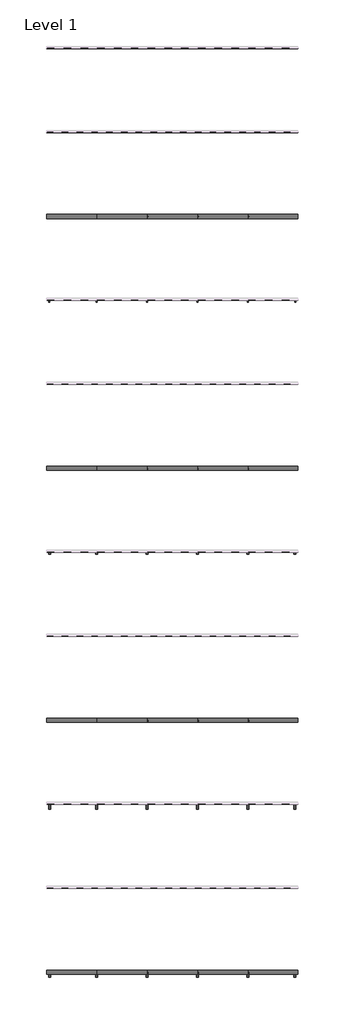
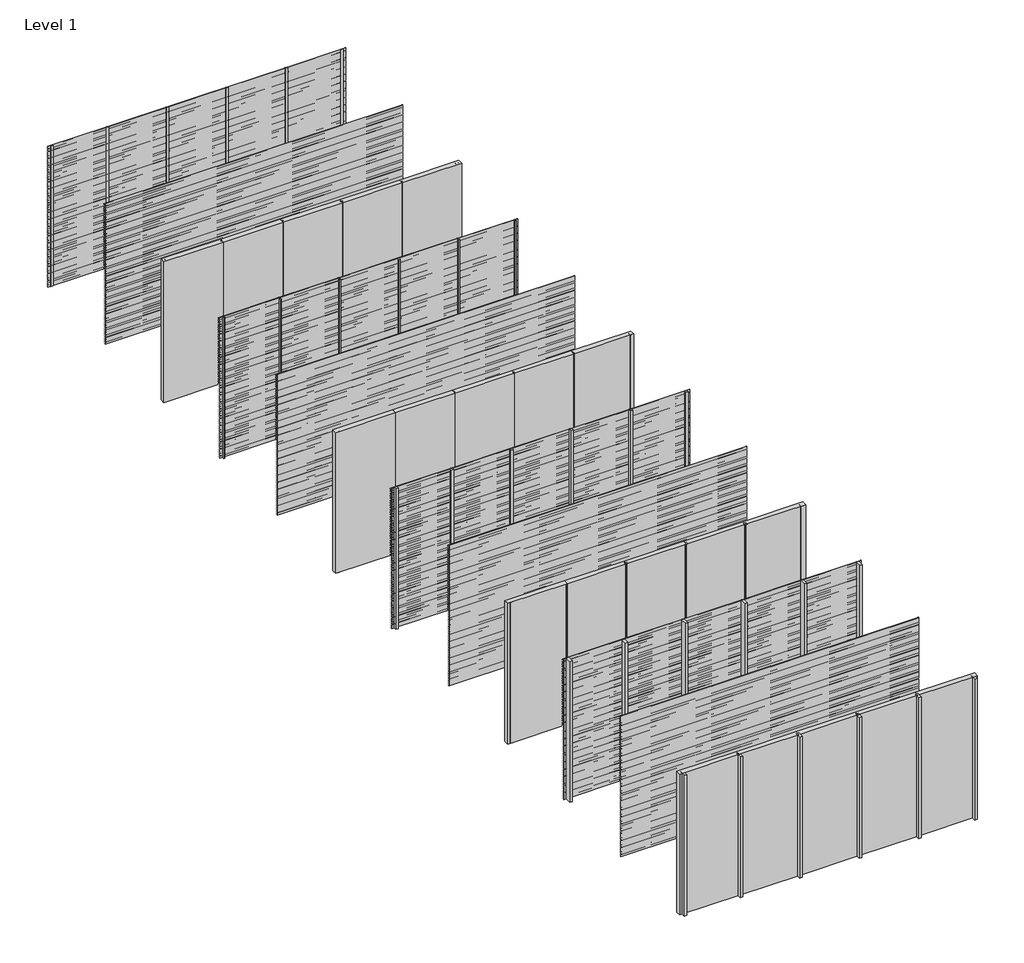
# One storey, part 1 of 16: 48 members, 44 plates, 26 proxies.
"""IFC4 building model written with IfcOpenShell, lengths in millimetres."""

from ifc_helpers import new_model, si_unit, frame, origin, origin_with_axes, place, context, project, spatial, polyline, outline, extrude, transform, mapped, element, save
from components import rectangular_mullion_bbbcbd30, rectangular_mullion_f8d4a220, rectangular_mullion_81aaf6fe, rectangular_mullion_6e08dc26, rectangular_mullion_75c52e10, rectangular_mullion_40295cf1, rectangular_mullion_7f158cb3, rectangular_mullion_66519e13, rectangular_mullion_5829b51c, rectangular_mullion_3b5b8a15, rectangular_mullion_81543344, rectangular_mullion_041a21c4, empty_system_panel_empty_50a928b3, empty_system_panel_empty_6b1ffbf5

model = new_model("IFC4")

# Units and contexts
model_context = context("Model", 3, world=origin())
ifc_project = project(units=[si_unit("LENGTHUNIT", "METRE", prefix="MILLI")], contexts=[model_context])

# Site, building, storey
site = spatial("IfcSite", under=ifc_project)
building = spatial("IfcBuilding", under=site)
storey = spatial("IfcBuildingStorey", under=building, Name="Level 1", Elevation=0.0)

# Proxies
placement = place(None, origin())
element("IfcBuildingElementProxy", 1, Name="Wall Sweeps", at=placement, inside=storey, context=model_context, shape_type="SweptSolid", body=[
    extrude(outline(polyline([(-19995.0, 3000.0), (-19995.0, 2989.6352854), (-19954.0, 2965.0), (-19954.0, 2950.0), (-19997.0, 2975.8370066), (-19997.0, 3000.0), (-19995.0, 3000.0)])), frame((0.0, 0.0, 0.0), z_axis=(1.0, 0.0, 0.0), x_axis=(0.0, 1.0, 0.0)), (0.0, 0.0, 1.0), 6000.0),
])
element("IfcBuildingElementProxy", 2, Name="Wall Sweeps", at=placement, inside=storey, context=model_context, shape_type="SweptSolid", body=[
    extrude(outline(polyline([(-19995.0, 2950.0), (-19995.0, 2939.6352854), (-19954.0, 2915.0), (-19954.0, 2900.0), (-19997.0, 2925.8370066), (-19997.0, 2950.0), (-19995.0, 2950.0)])), frame((0.0, 0.0, 0.0), z_axis=(1.0, 0.0, 0.0), x_axis=(0.0, 1.0, 0.0)), (0.0, 0.0, 1.0), 6000.0),
])
element("IfcBuildingElementProxy", 3, Name="Wall Sweeps", at=placement, inside=storey, context=model_context, shape_type="SweptSolid", body=[
    extrude(outline(polyline([(-19995.0, 2900.0), (-19995.0, 2889.6352854), (-19954.0, 2865.0), (-19954.0, 2850.0), (-19997.0, 2875.8370066), (-19997.0, 2900.0), (-19995.0, 2900.0)])), frame((0.0, 0.0, 0.0), z_axis=(1.0, 0.0, 0.0), x_axis=(0.0, 1.0, 0.0)), (0.0, 0.0, 1.0), 6000.0),
])
element("IfcBuildingElementProxy", 4, Name="Wall Sweeps", at=placement, inside=storey, context=model_context, shape_type="SweptSolid", body=[
    extrude(outline(polyline([(-19995.0, 2850.0), (-19995.0, 2839.6352854), (-19954.0, 2815.0), (-19954.0, 2800.0), (-19997.0, 2825.8370066), (-19997.0, 2850.0), (-19995.0, 2850.0)])), frame((0.0, 0.0, 0.0), z_axis=(1.0, 0.0, 0.0), x_axis=(0.0, 1.0, 0.0)), (0.0, 0.0, 1.0), 6000.0),
])
element("IfcBuildingElementProxy", 5, Name="Wall Sweeps", at=placement, inside=storey, context=model_context, shape_type="SweptSolid", body=[
    extrude(outline(polyline([(-19995.0, 2800.0), (-19995.0, 2789.6352854), (-19954.0, 2765.0), (-19954.0, 2750.0), (-19997.0, 2775.8370066), (-19997.0, 2800.0), (-19995.0, 2800.0)])), frame((0.0, 0.0, 0.0), z_axis=(1.0, 0.0, 0.0), x_axis=(0.0, 1.0, 0.0)), (0.0, 0.0, 1.0), 6000.0),
])
element("IfcBuildingElementProxy", 6, Name="Wall Sweeps", at=placement, inside=storey, context=model_context, shape_type="SweptSolid", body=[
    extrude(outline(polyline([(-19995.0, 2750.0), (-19995.0, 2739.6352854), (-19954.0, 2715.0), (-19954.0, 2700.0), (-19997.0, 2725.8370066), (-19997.0, 2750.0), (-19995.0, 2750.0)])), frame((0.0, 0.0, 0.0), z_axis=(1.0, 0.0, 0.0), x_axis=(0.0, 1.0, 0.0)), (0.0, 0.0, 1.0), 6000.0),
])
element("IfcBuildingElementProxy", 7, Name="Wall Sweeps", at=placement, inside=storey, context=model_context, shape_type="SweptSolid", body=[
    extrude(outline(polyline([(-19995.0, 2700.0), (-19995.0, 2689.6352854), (-19954.0, 2665.0), (-19954.0, 2650.0), (-19997.0, 2675.8370066), (-19997.0, 2700.0), (-19995.0, 2700.0)])), frame((0.0, 0.0, 0.0), z_axis=(1.0, 0.0, 0.0), x_axis=(0.0, 1.0, 0.0)), (0.0, 0.0, 1.0), 6000.0),
])
element("IfcBuildingElementProxy", 8, Name="Wall Sweeps", at=placement, inside=storey, context=model_context, shape_type="SweptSolid", body=[
    extrude(outline(polyline([(-19995.0, 2650.0), (-19995.0, 2639.6352854), (-19954.0, 2615.0), (-19954.0, 2600.0), (-19997.0, 2625.8370066), (-19997.0, 2650.0), (-19995.0, 2650.0)])), frame((0.0, 0.0, 0.0), z_axis=(1.0, 0.0, 0.0), x_axis=(0.0, 1.0, 0.0)), (0.0, 0.0, 1.0), 6000.0),
])
element("IfcBuildingElementProxy", 9, Name="Wall Sweeps", at=placement, inside=storey, context=model_context, shape_type="SweptSolid", body=[
    extrude(outline(polyline([(-19995.0, 2600.0), (-19995.0, 2589.6352854), (-19954.0, 2565.0), (-19954.0, 2550.0), (-19997.0, 2575.8370066), (-19997.0, 2600.0), (-19995.0, 2600.0)])), frame((0.0, 0.0, 0.0), z_axis=(1.0, 0.0, 0.0), x_axis=(0.0, 1.0, 0.0)), (0.0, 0.0, 1.0), 6000.0),
])
element("IfcBuildingElementProxy", 10, Name="Wall Sweeps", at=placement, inside=storey, context=model_context, shape_type="SweptSolid", body=[
    extrude(outline(polyline([(-19995.0, 2550.0), (-19995.0, 2539.6352854), (-19954.0, 2515.0), (-19954.0, 2500.0), (-19997.0, 2525.8370066), (-19997.0, 2550.0), (-19995.0, 2550.0)])), frame((0.0, 0.0, 0.0), z_axis=(1.0, 0.0, 0.0), x_axis=(0.0, 1.0, 0.0)), (0.0, 0.0, 1.0), 6000.0),
])
element("IfcBuildingElementProxy", 11, Name="Wall Sweeps", at=placement, inside=storey, context=model_context, shape_type="SweptSolid", body=[
    extrude(outline(polyline([(-19995.0, 2500.0), (-19995.0, 2489.6352854), (-19954.0, 2465.0), (-19954.0, 2450.0), (-19997.0, 2475.8370066), (-19997.0, 2500.0), (-19995.0, 2500.0)])), frame((0.0, 0.0, 0.0), z_axis=(1.0, 0.0, 0.0), x_axis=(0.0, 1.0, 0.0)), (0.0, 0.0, 1.0), 6000.0),
])
element("IfcBuildingElementProxy", 12, Name="Wall Sweeps", at=placement, inside=storey, context=model_context, shape_type="SweptSolid", body=[
    extrude(outline(polyline([(-19995.0, 2450.0), (-19995.0, 2439.6352854), (-19954.0, 2415.0), (-19954.0, 2400.0), (-19997.0, 2425.8370066), (-19997.0, 2450.0), (-19995.0, 2450.0)])), frame((0.0, 0.0, 0.0), z_axis=(1.0, 0.0, 0.0), x_axis=(0.0, 1.0, 0.0)), (0.0, 0.0, 1.0), 6000.0),
])
element("IfcBuildingElementProxy", 13, Name="Wall Sweeps", at=placement, inside=storey, context=model_context, shape_type="SweptSolid", body=[
    extrude(outline(polyline([(-19995.0, 2400.0), (-19995.0, 2389.6352854), (-19954.0, 2365.0), (-19954.0, 2350.0), (-19997.0, 2375.8370066), (-19997.0, 2400.0), (-19995.0, 2400.0)])), frame((0.0, 0.0, 0.0), z_axis=(1.0, 0.0, 0.0), x_axis=(0.0, 1.0, 0.0)), (0.0, 0.0, 1.0), 6000.0),
])
element("IfcBuildingElementProxy", 14, Name="Wall Sweeps", at=placement, inside=storey, context=model_context, shape_type="SweptSolid", body=[
    extrude(outline(polyline([(-19995.0, 2350.0), (-19995.0, 2339.6352854), (-19954.0, 2315.0), (-19954.0, 2300.0), (-19997.0, 2325.8370066), (-19997.0, 2350.0), (-19995.0, 2350.0)])), frame((0.0, 0.0, 0.0), z_axis=(1.0, 0.0, 0.0), x_axis=(0.0, 1.0, 0.0)), (0.0, 0.0, 1.0), 6000.0),
])
element("IfcBuildingElementProxy", 15, Name="Wall Sweeps", at=placement, inside=storey, context=model_context, shape_type="SweptSolid", body=[
    extrude(outline(polyline([(-19995.0, 2300.0), (-19995.0, 2289.6352854), (-19954.0, 2265.0), (-19954.0, 2250.0), (-19997.0, 2275.8370066), (-19997.0, 2300.0), (-19995.0, 2300.0)])), frame((0.0, 0.0, 0.0), z_axis=(1.0, 0.0, 0.0), x_axis=(0.0, 1.0, 0.0)), (0.0, 0.0, 1.0), 6000.0),
])
element("IfcBuildingElementProxy", 16, Name="Wall Sweeps", at=placement, inside=storey, context=model_context, shape_type="SweptSolid", body=[
    extrude(outline(polyline([(-19995.0, 2250.0), (-19995.0, 2239.6352854), (-19954.0, 2215.0), (-19954.0, 2200.0), (-19997.0, 2225.8370066), (-19997.0, 2250.0), (-19995.0, 2250.0)])), frame((0.0, 0.0, 0.0), z_axis=(1.0, 0.0, 0.0), x_axis=(0.0, 1.0, 0.0)), (0.0, 0.0, 1.0), 6000.0),
])
element("IfcBuildingElementProxy", 17, Name="Wall Sweeps", at=placement, inside=storey, context=model_context, shape_type="SweptSolid", body=[
    extrude(outline(polyline([(-19995.0, 2200.0), (-19995.0, 2189.6352854), (-19954.0, 2165.0), (-19954.0, 2150.0), (-19997.0, 2175.8370066), (-19997.0, 2200.0), (-19995.0, 2200.0)])), frame((0.0, 0.0, 0.0), z_axis=(1.0, 0.0, 0.0), x_axis=(0.0, 1.0, 0.0)), (0.0, 0.0, 1.0), 6000.0),
])
element("IfcBuildingElementProxy", 18, Name="Wall Sweeps", at=placement, inside=storey, context=model_context, shape_type="SweptSolid", body=[
    extrude(outline(polyline([(-19995.0, 2150.0), (-19995.0, 2139.6352854), (-19954.0, 2115.0), (-19954.0, 2100.0), (-19997.0, 2125.8370066), (-19997.0, 2150.0), (-19995.0, 2150.0)])), frame((0.0, 0.0, 0.0), z_axis=(1.0, 0.0, 0.0), x_axis=(0.0, 1.0, 0.0)), (0.0, 0.0, 1.0), 6000.0),
])
element("IfcBuildingElementProxy", 19, Name="Wall Sweeps", at=placement, inside=storey, context=model_context, shape_type="SweptSolid", body=[
    extrude(outline(polyline([(-19995.0, 2100.0), (-19995.0, 2089.6352854), (-19954.0, 2065.0), (-19954.0, 2050.0), (-19997.0, 2075.8370066), (-19997.0, 2100.0), (-19995.0, 2100.0)])), frame((0.0, 0.0, 0.0), z_axis=(1.0, 0.0, 0.0), x_axis=(0.0, 1.0, 0.0)), (0.0, 0.0, 1.0), 6000.0),
])
element("IfcBuildingElementProxy", 20, Name="Wall Sweeps", at=placement, inside=storey, context=model_context, shape_type="SweptSolid", body=[
    extrude(outline(polyline([(-19995.0, 2050.0), (-19995.0, 2039.6352854), (-19954.0, 2015.0), (-19954.0, 2000.0), (-19997.0, 2025.8370066), (-19997.0, 2050.0), (-19995.0, 2050.0)])), frame((0.0, 0.0, 0.0), z_axis=(1.0, 0.0, 0.0), x_axis=(0.0, 1.0, 0.0)), (0.0, 0.0, 1.0), 6000.0),
])
element("IfcBuildingElementProxy", 21, Name="Wall Sweeps", at=placement, inside=storey, context=model_context, shape_type="SweptSolid", body=[
    extrude(outline(polyline([(-19995.0, 2000.0), (-19995.0, 1989.6352854), (-19954.0, 1965.0), (-19954.0, 1950.0), (-19997.0, 1975.8370066), (-19997.0, 2000.0), (-19995.0, 2000.0)])), frame((0.0, 0.0, 0.0), z_axis=(1.0, 0.0, 0.0), x_axis=(0.0, 1.0, 0.0)), (0.0, 0.0, 1.0), 6000.0),
])
element("IfcBuildingElementProxy", 22, Name="Wall Sweeps", at=placement, inside=storey, context=model_context, shape_type="SweptSolid", body=[
    extrude(outline(polyline([(-19995.0, 1950.0), (-19995.0, 1939.6352854), (-19954.0, 1915.0), (-19954.0, 1900.0), (-19997.0, 1925.8370066), (-19997.0, 1950.0), (-19995.0, 1950.0)])), frame((0.0, 0.0, 0.0), z_axis=(1.0, 0.0, 0.0), x_axis=(0.0, 1.0, 0.0)), (0.0, 0.0, 1.0), 6000.0),
])
element("IfcBuildingElementProxy", 23, Name="Wall Sweeps", at=placement, inside=storey, context=model_context, shape_type="SweptSolid", body=[
    extrude(outline(polyline([(-19995.0, 1900.0), (-19995.0, 1889.6352854), (-19954.0, 1865.0), (-19954.0, 1850.0), (-19997.0, 1875.8370066), (-19997.0, 1900.0), (-19995.0, 1900.0)])), frame((0.0, 0.0, 0.0), z_axis=(1.0, 0.0, 0.0), x_axis=(0.0, 1.0, 0.0)), (0.0, 0.0, 1.0), 6000.0),
])
element("IfcBuildingElementProxy", 24, Name="Wall Sweeps", at=placement, inside=storey, context=model_context, shape_type="SweptSolid", body=[
    extrude(outline(polyline([(-19995.0, 1850.0), (-19995.0, 1839.6352854), (-19954.0, 1815.0), (-19954.0, 1800.0), (-19997.0, 1825.8370066), (-19997.0, 1850.0), (-19995.0, 1850.0)])), frame((0.0, 0.0, 0.0), z_axis=(1.0, 0.0, 0.0), x_axis=(0.0, 1.0, 0.0)), (0.0, 0.0, 1.0), 6000.0),
])
element("IfcBuildingElementProxy", 25, Name="Wall Sweeps", at=placement, inside=storey, context=model_context, shape_type="SweptSolid", body=[
    extrude(outline(polyline([(-19995.0, 1800.0), (-19995.0, 1789.6352854), (-19954.0, 1765.0), (-19954.0, 1750.0), (-19997.0, 1775.8370066), (-19997.0, 1800.0), (-19995.0, 1800.0)])), frame((0.0, 0.0, 0.0), z_axis=(1.0, 0.0, 0.0), x_axis=(0.0, 1.0, 0.0)), (0.0, 0.0, 1.0), 6000.0),
])
element("IfcBuildingElementProxy", 26, Name="Wall Sweeps", at=placement, inside=storey, context=model_context, shape_type="SweptSolid", body=[
    extrude(outline(polyline([(-19995.0, 1750.0), (-19995.0, 1739.6352854), (-19954.0, 1715.0), (-19954.0, 1700.0), (-19997.0, 1725.8370066), (-19997.0, 1750.0), (-19995.0, 1750.0)])), frame((0.0, 0.0, 0.0), z_axis=(1.0, 0.0, 0.0), x_axis=(0.0, 1.0, 0.0)), (0.0, 0.0, 1.0), 6000.0),
])

# Members
rectangular_mullion_shape = rectangular_mullion_bbbcbd30(model_context)
element("IfcMember", 27, ObjectType="Rectangular Mullion : RSen_21_CWM_support profile - 50x12 - left_gen_duco projects", at=placement, inside=storey, context=model_context, shape_type="MappedRepresentation", body=[
    mapped(rectangular_mullion_shape, transform((0.0, 0.0, 0.0), x_axis=(-1.0, 0.0, 0.0), y_axis=(0.0, 1.0, 0.0), z_axis=(0.0, 0.0, -1.0))),
])
element("IfcMember", 28, ObjectType="Rectangular Mullion : RSen_21_CWM_support profile - 50x12 - left_gen_duco projects", at=placement, inside=storey, context=model_context, shape_type="MappedRepresentation", body=[
    mapped(rectangular_mullion_shape, transform((0.0, -4000.0, 0.0), x_axis=(-1.0, 0.0, 0.0), y_axis=(0.0, 1.0, 0.0), z_axis=(0.0, 0.0, -1.0))),
])
rectangular_mullion_2_shape = rectangular_mullion_f8d4a220(model_context)
element("IfcMember", 29, ObjectType="Rectangular Mullion : RSen_21_CWM_support profile - 50x12 - right_gen_duco projects", at=placement, inside=storey, context=model_context, shape_type="MappedRepresentation", body=[
    mapped(rectangular_mullion_2_shape, transform((6000.0, 0.0, 3000.0), x_axis=(1.0, 0.0, 0.0), y_axis=(0.0, 1.0, 0.0), z_axis=(0.0, 0.0, 1.0))),
])
element("IfcMember", 30, ObjectType="Rectangular Mullion : RSen_21_CWM_support profile - 50x12 - right_gen_duco projects", at=placement, inside=storey, context=model_context, shape_type="MappedRepresentation", body=[
    mapped(rectangular_mullion_2_shape, transform((6000.0, -4000.0, 3000.0), x_axis=(1.0, 0.0, 0.0), y_axis=(0.0, 1.0, 0.0), z_axis=(0.0, 0.0, 1.0))),
])
rectangular_mullion_3_shape = rectangular_mullion_81aaf6fe(model_context)
element("IfcMember", 31, ObjectType="Rectangular Mullion : RSen_21_CWM_support profile - 21x50 Multi - left_gen_duco projects", at=placement, inside=storey, context=model_context, shape_type="MappedRepresentation", body=[
    mapped(rectangular_mullion_3_shape, transform((0.0, -6000.0, 0.0), x_axis=(-1.0, 0.0, 0.0), y_axis=(0.0, 1.0, 0.0), z_axis=(0.0, 0.0, -1.0))),
])
element("IfcMember", 32, ObjectType="Rectangular Mullion : RSen_21_CWM_support profile - 21x50 Multi - left_gen_duco projects", at=placement, inside=storey, context=model_context, shape_type="MappedRepresentation", body=[
    mapped(rectangular_mullion_3_shape, transform((0.0, -10000.0, 0.0), x_axis=(-1.0, 0.0, 0.0), y_axis=(0.0, 1.0, 0.0), z_axis=(0.0, 0.0, -1.0))),
])
rectangular_mullion_4_shape = rectangular_mullion_6e08dc26(model_context)
element("IfcMember", 33, ObjectType="Rectangular Mullion : RSen_21_CWM_support profile - 21x50 Multi - right_gen_duco projects", at=placement, inside=storey, context=model_context, shape_type="MappedRepresentation", body=[
    mapped(rectangular_mullion_4_shape, transform((6000.0, -6000.0, 3000.0), x_axis=(1.0, 0.0, 0.0), y_axis=(0.0, 1.0, 0.0), z_axis=(0.0, 0.0, 1.0))),
])
element("IfcMember", 34, ObjectType="Rectangular Mullion : RSen_21_CWM_support profile - 21x50 Multi - right_gen_duco projects", at=placement, inside=storey, context=model_context, shape_type="MappedRepresentation", body=[
    mapped(rectangular_mullion_4_shape, transform((6000.0, -10000.0, 3000.0), x_axis=(1.0, 0.0, 0.0), y_axis=(0.0, 1.0, 0.0), z_axis=(0.0, 0.0, 1.0))),
])
rectangular_mullion_5_shape = rectangular_mullion_75c52e10(model_context)
element("IfcMember", 35, ObjectType="Rectangular Mullion : RSen_21_CWM_support profile - 50x50 - left_gen_duco projects", at=placement, inside=storey, context=model_context, shape_type="MappedRepresentation", body=[
    mapped(rectangular_mullion_5_shape, transform((0.0, -12000.0, 0.0), x_axis=(-1.0, 0.0, 0.0), y_axis=(0.0, 1.0, 0.0), z_axis=(0.0, 0.0, -1.0))),
])
element("IfcMember", 36, ObjectType="Rectangular Mullion : RSen_21_CWM_support profile - 50x50 - left_gen_duco projects", at=placement, inside=storey, context=model_context, shape_type="MappedRepresentation", body=[
    mapped(rectangular_mullion_5_shape, transform((0.0, -16000.0, 0.0), x_axis=(-1.0, 0.0, 0.0), y_axis=(0.0, 1.0, 0.0), z_axis=(0.0, 0.0, -1.0))),
])
rectangular_mullion_6_shape = rectangular_mullion_40295cf1(model_context)
element("IfcMember", 37, ObjectType="Rectangular Mullion : RSen_21_CWM_support profile - 50x50 - right_gen_duco projects", at=placement, inside=storey, context=model_context, shape_type="MappedRepresentation", body=[
    mapped(rectangular_mullion_6_shape, transform((6000.0, -12000.0, 3000.0), x_axis=(1.0, 0.0, 0.0), y_axis=(0.0, 1.0, 0.0), z_axis=(0.0, 0.0, 1.0))),
])
element("IfcMember", 38, ObjectType="Rectangular Mullion : RSen_21_CWM_support profile - 50x50 - right_gen_duco projects", at=placement, inside=storey, context=model_context, shape_type="MappedRepresentation", body=[
    mapped(rectangular_mullion_6_shape, transform((6000.0, -16000.0, 3000.0), x_axis=(1.0, 0.0, 0.0), y_axis=(0.0, 1.0, 0.0), z_axis=(0.0, 0.0, 1.0))),
])
rectangular_mullion_7_shape = rectangular_mullion_7f158cb3(model_context)
element("IfcMember", 39, ObjectType="Rectangular Mullion : RSen_21_CWM_support profile - 50x12_gen_duco projects", at=placement, inside=storey, context=model_context, shape_type="MappedRepresentation", body=[
    mapped(rectangular_mullion_7_shape, transform((4800.0, 0.0, 0.0), x_axis=(-1.0, 0.0, 0.0), y_axis=(0.0, 1.0, 0.0), z_axis=(0.0, 0.0, -1.0))),
])
element("IfcMember", 40, ObjectType="Rectangular Mullion : RSen_21_CWM_support profile - 50x12_gen_duco projects", at=placement, inside=storey, context=model_context, shape_type="MappedRepresentation", body=[
    mapped(rectangular_mullion_7_shape, transform((3600.0, 0.0, 0.0), x_axis=(-1.0, 0.0, 0.0), y_axis=(0.0, 1.0, 0.0), z_axis=(0.0, 0.0, -1.0))),
])
element("IfcMember", 41, ObjectType="Rectangular Mullion : RSen_21_CWM_support profile - 50x12_gen_duco projects", at=placement, inside=storey, context=model_context, shape_type="MappedRepresentation", body=[
    mapped(rectangular_mullion_7_shape, transform((2400.0, 0.0, 0.0), x_axis=(-1.0, 0.0, 0.0), y_axis=(0.0, 1.0, 0.0), z_axis=(0.0, 0.0, -1.0))),
])
element("IfcMember", 42, ObjectType="Rectangular Mullion : RSen_21_CWM_support profile - 50x12_gen_duco projects", at=placement, inside=storey, context=model_context, shape_type="MappedRepresentation", body=[
    mapped(rectangular_mullion_7_shape, transform((1200.0, 0.0, 0.0), x_axis=(-1.0, 0.0, 0.0), y_axis=(0.0, 1.0, 0.0), z_axis=(0.0, 0.0, -1.0))),
])
element("IfcMember", 43, ObjectType="Rectangular Mullion : RSen_21_CWM_support profile - 50x12_gen_duco projects", at=placement, inside=storey, context=model_context, shape_type="MappedRepresentation", body=[
    mapped(rectangular_mullion_7_shape, transform((4800.0, -4000.0, 0.0), x_axis=(-1.0, 0.0, 0.0), y_axis=(0.0, 1.0, 0.0), z_axis=(0.0, 0.0, -1.0))),
])
element("IfcMember", 44, ObjectType="Rectangular Mullion : RSen_21_CWM_support profile - 50x12_gen_duco projects", at=placement, inside=storey, context=model_context, shape_type="MappedRepresentation", body=[
    mapped(rectangular_mullion_7_shape, transform((3600.0, -4000.0, 0.0), x_axis=(-1.0, 0.0, 0.0), y_axis=(0.0, 1.0, 0.0), z_axis=(0.0, 0.0, -1.0))),
])
element("IfcMember", 45, ObjectType="Rectangular Mullion : RSen_21_CWM_support profile - 50x12_gen_duco projects", at=placement, inside=storey, context=model_context, shape_type="MappedRepresentation", body=[
    mapped(rectangular_mullion_7_shape, transform((2400.0, -4000.0, 0.0), x_axis=(-1.0, 0.0, 0.0), y_axis=(0.0, 1.0, 0.0), z_axis=(0.0, 0.0, -1.0))),
])
element("IfcMember", 46, ObjectType="Rectangular Mullion : RSen_21_CWM_support profile - 50x12_gen_duco projects", at=placement, inside=storey, context=model_context, shape_type="MappedRepresentation", body=[
    mapped(rectangular_mullion_7_shape, transform((1200.0, -4000.0, 0.0), x_axis=(-1.0, 0.0, 0.0), y_axis=(0.0, 1.0, 0.0), z_axis=(0.0, 0.0, -1.0))),
])
rectangular_mullion_8_shape = rectangular_mullion_66519e13(model_context)
element("IfcMember", 47, ObjectType="Rectangular Mullion : RSen_21_CWM_support profile - 21x50 Multi_gen_duco projects", at=placement, inside=storey, context=model_context, shape_type="MappedRepresentation", body=[
    mapped(rectangular_mullion_8_shape, transform((4800.0, -6000.0, 0.0), x_axis=(-1.0, 0.0, 0.0), y_axis=(0.0, 1.0, 0.0), z_axis=(0.0, 0.0, -1.0))),
])
element("IfcMember", 48, ObjectType="Rectangular Mullion : RSen_21_CWM_support profile - 21x50 Multi_gen_duco projects", at=placement, inside=storey, context=model_context, shape_type="MappedRepresentation", body=[
    mapped(rectangular_mullion_8_shape, transform((3600.0, -6000.0, 0.0), x_axis=(-1.0, 0.0, 0.0), y_axis=(0.0, 1.0, 0.0), z_axis=(0.0, 0.0, -1.0))),
])
element("IfcMember", 49, ObjectType="Rectangular Mullion : RSen_21_CWM_support profile - 21x50 Multi_gen_duco projects", at=placement, inside=storey, context=model_context, shape_type="MappedRepresentation", body=[
    mapped(rectangular_mullion_8_shape, transform((2400.0, -6000.0, 0.0), x_axis=(-1.0, 0.0, 0.0), y_axis=(0.0, 1.0, 0.0), z_axis=(0.0, 0.0, -1.0))),
])
element("IfcMember", 50, ObjectType="Rectangular Mullion : RSen_21_CWM_support profile - 21x50 Multi_gen_duco projects", at=placement, inside=storey, context=model_context, shape_type="MappedRepresentation", body=[
    mapped(rectangular_mullion_8_shape, transform((1200.0, -6000.0, 0.0), x_axis=(-1.0, 0.0, 0.0), y_axis=(0.0, 1.0, 0.0), z_axis=(0.0, 0.0, -1.0))),
])
element("IfcMember", 51, ObjectType="Rectangular Mullion : RSen_21_CWM_support profile - 21x50 Multi_gen_duco projects", at=placement, inside=storey, context=model_context, shape_type="MappedRepresentation", body=[
    mapped(rectangular_mullion_8_shape, transform((4800.0, -10000.0, 0.0), x_axis=(-1.0, 0.0, 0.0), y_axis=(0.0, 1.0, 0.0), z_axis=(0.0, 0.0, -1.0))),
])
element("IfcMember", 52, ObjectType="Rectangular Mullion : RSen_21_CWM_support profile - 21x50 Multi_gen_duco projects", at=placement, inside=storey, context=model_context, shape_type="MappedRepresentation", body=[
    mapped(rectangular_mullion_8_shape, transform((3600.0, -10000.0, 0.0), x_axis=(-1.0, 0.0, 0.0), y_axis=(0.0, 1.0, 0.0), z_axis=(0.0, 0.0, -1.0))),
])
element("IfcMember", 53, ObjectType="Rectangular Mullion : RSen_21_CWM_support profile - 21x50 Multi_gen_duco projects", at=placement, inside=storey, context=model_context, shape_type="MappedRepresentation", body=[
    mapped(rectangular_mullion_8_shape, transform((2400.0, -10000.0, 0.0), x_axis=(-1.0, 0.0, 0.0), y_axis=(0.0, 1.0, 0.0), z_axis=(0.0, 0.0, -1.0))),
])
element("IfcMember", 54, ObjectType="Rectangular Mullion : RSen_21_CWM_support profile - 21x50 Multi_gen_duco projects", at=placement, inside=storey, context=model_context, shape_type="MappedRepresentation", body=[
    mapped(rectangular_mullion_8_shape, transform((1200.0, -10000.0, 0.0), x_axis=(-1.0, 0.0, 0.0), y_axis=(0.0, 1.0, 0.0), z_axis=(0.0, 0.0, -1.0))),
])
rectangular_mullion_9_shape = rectangular_mullion_5829b51c(model_context)
element("IfcMember", 55, ObjectType="Rectangular Mullion : RSen_21_CWM_support profile - 50x50_gen_duco projects", at=placement, inside=storey, context=model_context, shape_type="MappedRepresentation", body=[
    mapped(rectangular_mullion_9_shape, transform((4800.0, -12000.0, 0.0), x_axis=(-1.0, 0.0, 0.0), y_axis=(0.0, 1.0, 0.0), z_axis=(0.0, 0.0, -1.0))),
])
element("IfcMember", 56, ObjectType="Rectangular Mullion : RSen_21_CWM_support profile - 50x50_gen_duco projects", at=placement, inside=storey, context=model_context, shape_type="MappedRepresentation", body=[
    mapped(rectangular_mullion_9_shape, transform((3600.0, -12000.0, 0.0), x_axis=(-1.0, 0.0, 0.0), y_axis=(0.0, 1.0, 0.0), z_axis=(0.0, 0.0, -1.0))),
])
element("IfcMember", 57, ObjectType="Rectangular Mullion : RSen_21_CWM_support profile - 50x50_gen_duco projects", at=placement, inside=storey, context=model_context, shape_type="MappedRepresentation", body=[
    mapped(rectangular_mullion_9_shape, transform((2400.0, -12000.0, 0.0), x_axis=(-1.0, 0.0, 0.0), y_axis=(0.0, 1.0, 0.0), z_axis=(0.0, 0.0, -1.0))),
])
element("IfcMember", 58, ObjectType="Rectangular Mullion : RSen_21_CWM_support profile - 50x50_gen_duco projects", at=placement, inside=storey, context=model_context, shape_type="MappedRepresentation", body=[
    mapped(rectangular_mullion_9_shape, transform((1200.0, -12000.0, 0.0), x_axis=(-1.0, 0.0, 0.0), y_axis=(0.0, 1.0, 0.0), z_axis=(0.0, 0.0, -1.0))),
])
element("IfcMember", 59, ObjectType="Rectangular Mullion : RSen_21_CWM_support profile - 50x50_gen_duco projects", at=placement, inside=storey, context=model_context, shape_type="MappedRepresentation", body=[
    mapped(rectangular_mullion_9_shape, transform((4800.0, -16000.0, 0.0), x_axis=(-1.0, 0.0, 0.0), y_axis=(0.0, 1.0, 0.0), z_axis=(0.0, 0.0, -1.0))),
])
element("IfcMember", 60, ObjectType="Rectangular Mullion : RSen_21_CWM_support profile - 50x50_gen_duco projects", at=placement, inside=storey, context=model_context, shape_type="MappedRepresentation", body=[
    mapped(rectangular_mullion_9_shape, transform((3600.0, -16000.0, 0.0), x_axis=(-1.0, 0.0, 0.0), y_axis=(0.0, 1.0, 0.0), z_axis=(0.0, 0.0, -1.0))),
])
element("IfcMember", 61, ObjectType="Rectangular Mullion : RSen_21_CWM_support profile - 50x50_gen_duco projects", at=placement, inside=storey, context=model_context, shape_type="MappedRepresentation", body=[
    mapped(rectangular_mullion_9_shape, transform((2400.0, -16000.0, 0.0), x_axis=(-1.0, 0.0, 0.0), y_axis=(0.0, 1.0, 0.0), z_axis=(0.0, 0.0, -1.0))),
])
element("IfcMember", 62, ObjectType="Rectangular Mullion : RSen_21_CWM_support profile - 50x50_gen_duco projects", at=placement, inside=storey, context=model_context, shape_type="MappedRepresentation", body=[
    mapped(rectangular_mullion_9_shape, transform((1200.0, -16000.0, 0.0), x_axis=(-1.0, 0.0, 0.0), y_axis=(0.0, 1.0, 0.0), z_axis=(0.0, 0.0, -1.0))),
])
rectangular_mullion_10_shape = rectangular_mullion_3b5b8a15(model_context)
element("IfcMember", 63, ObjectType="Rectangular Mullion : RSen_21_CWM_support profile - 50x125_gen_duco projects", at=placement, inside=storey, context=model_context, shape_type="MappedRepresentation", body=[
    mapped(rectangular_mullion_10_shape, transform((1200.0000002, -18000.0, 0.0), x_axis=(1.0, 0.0, 0.0), y_axis=(0.0, -1.0, 0.0), z_axis=(0.0, 0.0, -1.0))),
])
element("IfcMember", 64, ObjectType="Rectangular Mullion : RSen_21_CWM_support profile - 50x125_gen_duco projects", at=placement, inside=storey, context=model_context, shape_type="MappedRepresentation", body=[
    mapped(rectangular_mullion_10_shape, transform((2400.0000001, -18000.0, 0.0), x_axis=(1.0, 0.0, 0.0), y_axis=(0.0, -1.0, 0.0), z_axis=(0.0, 0.0, -1.0))),
])
element("IfcMember", 65, ObjectType="Rectangular Mullion : RSen_21_CWM_support profile - 50x125_gen_duco projects", at=placement, inside=storey, context=model_context, shape_type="MappedRepresentation", body=[
    mapped(rectangular_mullion_10_shape, transform((3599.9999999, -18000.0, 0.0), x_axis=(1.0, 0.0, 0.0), y_axis=(0.0, -1.0, 0.0), z_axis=(0.0, 0.0, -1.0))),
])
element("IfcMember", 66, ObjectType="Rectangular Mullion : RSen_21_CWM_support profile - 50x125_gen_duco projects", at=placement, inside=storey, context=model_context, shape_type="MappedRepresentation", body=[
    mapped(rectangular_mullion_10_shape, transform((4799.9999998, -18000.0, 0.0), x_axis=(1.0, 0.0, 0.0), y_axis=(0.0, -1.0, 0.0), z_axis=(0.0, 0.0, -1.0))),
])
element("IfcMember", 67, ObjectType="Rectangular Mullion : RSen_21_CWM_support profile - 50x125_gen_duco projects", at=placement, inside=storey, context=model_context, shape_type="MappedRepresentation", body=[
    mapped(rectangular_mullion_10_shape, transform((1200.0000002, -22000.0, 0.0), x_axis=(1.0, 0.0, 0.0), y_axis=(0.0, -1.0, 0.0), z_axis=(0.0, 0.0, -1.0))),
])
element("IfcMember", 68, ObjectType="Rectangular Mullion : RSen_21_CWM_support profile - 50x125_gen_duco projects", at=placement, inside=storey, context=model_context, shape_type="MappedRepresentation", body=[
    mapped(rectangular_mullion_10_shape, transform((2400.0000001, -22000.0, 0.0), x_axis=(1.0, 0.0, 0.0), y_axis=(0.0, -1.0, 0.0), z_axis=(0.0, 0.0, -1.0))),
])
element("IfcMember", 69, ObjectType="Rectangular Mullion : RSen_21_CWM_support profile - 50x125_gen_duco projects", at=placement, inside=storey, context=model_context, shape_type="MappedRepresentation", body=[
    mapped(rectangular_mullion_10_shape, transform((3599.9999999, -22000.0, 0.0), x_axis=(1.0, 0.0, 0.0), y_axis=(0.0, -1.0, 0.0), z_axis=(0.0, 0.0, -1.0))),
])
element("IfcMember", 70, ObjectType="Rectangular Mullion : RSen_21_CWM_support profile - 50x125_gen_duco projects", at=placement, inside=storey, context=model_context, shape_type="MappedRepresentation", body=[
    mapped(rectangular_mullion_10_shape, transform((4799.9999998, -22000.0, 0.0), x_axis=(1.0, 0.0, 0.0), y_axis=(0.0, -1.0, 0.0), z_axis=(0.0, 0.0, -1.0))),
])
rectangular_mullion_11_shape = rectangular_mullion_81543344(model_context)
element("IfcMember", 71, ObjectType="Rectangular Mullion : RSen_21_CWM_support profile - 50x125 - left_gen_duco projects", at=placement, inside=storey, context=model_context, shape_type="MappedRepresentation", body=[
    mapped(rectangular_mullion_11_shape, transform((6000.0, -18000.0, 0.0), x_axis=(1.0, 0.0, 0.0), y_axis=(0.0, -1.0, 0.0), z_axis=(0.0, 0.0, -1.0))),
])
element("IfcMember", 72, ObjectType="Rectangular Mullion : RSen_21_CWM_support profile - 50x125 - left_gen_duco projects", at=placement, inside=storey, context=model_context, shape_type="MappedRepresentation", body=[
    mapped(rectangular_mullion_11_shape, transform((6000.0, -22000.0, 0.0), x_axis=(1.0, 0.0, 0.0), y_axis=(0.0, -1.0, 0.0), z_axis=(0.0, 0.0, -1.0))),
])
rectangular_mullion_12_shape = rectangular_mullion_041a21c4(model_context)
element("IfcMember", 73, ObjectType="Rectangular Mullion : RSen_21_CWM_support profile - 50x125 - right_gen_duco projects", at=placement, inside=storey, context=model_context, shape_type="MappedRepresentation", body=[
    mapped(rectangular_mullion_12_shape, transform((0.0, -18000.0, 3000.0), x_axis=(-1.0, 0.0, 0.0), y_axis=(0.0, -1.0, 0.0), z_axis=(0.0, 0.0, 1.0))),
])
element("IfcMember", 74, ObjectType="Rectangular Mullion : RSen_21_CWM_support profile - 50x125 - right_gen_duco projects", at=placement, inside=storey, context=model_context, shape_type="MappedRepresentation", body=[
    mapped(rectangular_mullion_12_shape, transform((0.0, -22000.0, 3000.0), x_axis=(-1.0, 0.0, 0.0), y_axis=(0.0, -1.0, 0.0), z_axis=(0.0, 0.0, 1.0))),
])

# Plates
element("IfcPlate", 75, ObjectType="RSen_21_WA_louvre blade classic W 45HP_gen_duco projects", at=placement, inside=storey, context=model_context, shape_type="SweptSolid", body=[
    extrude(outline(polyline([(0.0, 1.0), (1200.0, 1.0), (1200.0, -1.0), (0.0, -1.0), (0.0, 1.0)])), origin_with_axes(), (0.0, 0.0, 1.0), 3000.0),
])
element("IfcPlate", 76, ObjectType="RSen_21_WA_louvre blade classic W 45HP_gen_duco projects", at=placement, inside=storey, context=model_context, shape_type="SweptSolid", body=[
    extrude(outline(polyline([(1200.0, 1.0), (2400.0, 1.0), (2400.0, -1.0), (1200.0, -1.0), (1200.0, 1.0)])), origin_with_axes(), (0.0, 0.0, 1.0), 3000.0),
])
element("IfcPlate", 77, ObjectType="RSen_21_WA_louvre blade classic W 45HP_gen_duco projects", at=placement, inside=storey, context=model_context, shape_type="SweptSolid", body=[
    extrude(outline(polyline([(2400.0, 1.0), (3600.0, 1.0), (3600.0, -1.0), (2400.0, -1.0), (2400.0, 1.0)])), origin_with_axes(), (0.0, 0.0, 1.0), 3000.0),
])
element("IfcPlate", 78, ObjectType="RSen_21_WA_louvre blade classic W 45HP_gen_duco projects", at=placement, inside=storey, context=model_context, shape_type="SweptSolid", body=[
    extrude(outline(polyline([(3600.0, 1.0), (4800.0, 1.0), (4800.0, -1.0), (3600.0, -1.0), (3600.0, 1.0)])), origin_with_axes(), (0.0, 0.0, 1.0), 3000.0),
])
element("IfcPlate", 79, ObjectType="RSen_21_WA_louvre blade classic W 45HP_gen_duco projects", at=placement, inside=storey, context=model_context, shape_type="SweptSolid", body=[
    extrude(outline(polyline([(4800.0, 1.0), (6000.0, 1.0), (6000.0, -1.0), (4800.0, -1.0), (4800.0, 1.0)])), origin_with_axes(), (0.0, 0.0, 1.0), 3000.0),
])
element("IfcPlate", 80, ObjectType="RSen_21_WA_louvre blade classic W 45HP_gen_duco projects", at=placement, inside=storey, context=model_context, shape_type="SweptSolid", body=[
    extrude(outline(polyline([(0.0, -1999.0), (6000.0, -1999.0), (6000.0, -2001.0), (0.0, -2001.0), (0.0, -1999.0)])), origin_with_axes(), (0.0, 0.0, 1.0), 3000.0),
])
element("IfcPlate", 81, ObjectType="RSen_21_WA_louvre blade classic W 45HP_gen_duco projects", at=placement, inside=storey, context=model_context, shape_type="SweptSolid", body=[
    extrude(outline(polyline([(0.0, -5999.0), (1200.0, -5999.0), (1200.0, -6001.0), (0.0, -6001.0), (0.0, -5999.0)])), origin_with_axes(), (0.0, 0.0, 1.0), 3000.0),
])
element("IfcPlate", 82, ObjectType="RSen_21_WA_louvre blade classic W 45HP_gen_duco projects", at=placement, inside=storey, context=model_context, shape_type="SweptSolid", body=[
    extrude(outline(polyline([(1200.0, -5999.0), (2400.0, -5999.0), (2400.0, -6001.0), (1200.0, -6001.0), (1200.0, -5999.0)])), origin_with_axes(), (0.0, 0.0, 1.0), 3000.0),
])
element("IfcPlate", 83, ObjectType="RSen_21_WA_louvre blade classic W 45HP_gen_duco projects", at=placement, inside=storey, context=model_context, shape_type="SweptSolid", body=[
    extrude(outline(polyline([(2400.0, -5999.0), (3600.0, -5999.0), (3600.0, -6001.0), (2400.0, -6001.0), (2400.0, -5999.0)])), origin_with_axes(), (0.0, 0.0, 1.0), 3000.0),
])
element("IfcPlate", 84, ObjectType="RSen_21_WA_louvre blade classic W 45HP_gen_duco projects", at=placement, inside=storey, context=model_context, shape_type="SweptSolid", body=[
    extrude(outline(polyline([(3600.0, -5999.0), (4800.0, -5999.0), (4800.0, -6001.0), (3600.0, -6001.0), (3600.0, -5999.0)])), origin_with_axes(), (0.0, 0.0, 1.0), 3000.0),
])
element("IfcPlate", 85, ObjectType="RSen_21_WA_louvre blade classic W 45HP_gen_duco projects", at=placement, inside=storey, context=model_context, shape_type="SweptSolid", body=[
    extrude(outline(polyline([(4800.0, -5999.0), (6000.0, -5999.0), (6000.0, -6001.0), (4800.0, -6001.0), (4800.0, -5999.0)])), origin_with_axes(), (0.0, 0.0, 1.0), 3000.0),
])
element("IfcPlate", 86, ObjectType="RSen_21_WA_louvre blade classic W 45HP_gen_duco projects", at=placement, inside=storey, context=model_context, shape_type="SweptSolid", body=[
    extrude(outline(polyline([(0.0, -7999.0), (6000.0, -7999.0), (6000.0, -8001.0), (0.0, -8001.0), (0.0, -7999.0)])), origin_with_axes(), (0.0, 0.0, 1.0), 3000.0),
])
element("IfcPlate", 87, ObjectType="RSen_21_WA_louvre blade classic W 45HP_gen_duco projects", at=placement, inside=storey, context=model_context, shape_type="SweptSolid", body=[
    extrude(outline(polyline([(0.0, -11999.0), (1200.0, -11999.0), (1200.0, -12001.0), (0.0, -12001.0), (0.0, -11999.0)])), origin_with_axes(), (0.0, 0.0, 1.0), 3000.0),
])
element("IfcPlate", 88, ObjectType="RSen_21_WA_louvre blade classic W 45HP_gen_duco projects", at=placement, inside=storey, context=model_context, shape_type="SweptSolid", body=[
    extrude(outline(polyline([(1200.0, -11999.0), (2400.0, -11999.0), (2400.0, -12001.0), (1200.0, -12001.0), (1200.0, -11999.0)])), origin_with_axes(), (0.0, 0.0, 1.0), 3000.0),
])
element("IfcPlate", 89, ObjectType="RSen_21_WA_louvre blade classic W 45HP_gen_duco projects", at=placement, inside=storey, context=model_context, shape_type="SweptSolid", body=[
    extrude(outline(polyline([(2400.0, -11999.0), (3600.0, -11999.0), (3600.0, -12001.0), (2400.0, -12001.0), (2400.0, -11999.0)])), origin_with_axes(), (0.0, 0.0, 1.0), 3000.0),
])
element("IfcPlate", 90, ObjectType="RSen_21_WA_louvre blade classic W 45HP_gen_duco projects", at=placement, inside=storey, context=model_context, shape_type="SweptSolid", body=[
    extrude(outline(polyline([(3600.0, -11999.0), (4800.0, -11999.0), (4800.0, -12001.0), (3600.0, -12001.0), (3600.0, -11999.0)])), origin_with_axes(), (0.0, 0.0, 1.0), 3000.0),
])
element("IfcPlate", 91, ObjectType="RSen_21_WA_louvre blade classic W 45HP_gen_duco projects", at=placement, inside=storey, context=model_context, shape_type="SweptSolid", body=[
    extrude(outline(polyline([(4800.0, -11999.0), (6000.0, -11999.0), (6000.0, -12001.0), (4800.0, -12001.0), (4800.0, -11999.0)])), origin_with_axes(), (0.0, 0.0, 1.0), 3000.0),
])
element("IfcPlate", 92, ObjectType="RSen_21_WA_louvre blade classic W 45HP_gen_duco projects", at=placement, inside=storey, context=model_context, shape_type="SweptSolid", body=[
    extrude(outline(polyline([(0.0, -13999.0), (6000.0, -13999.0), (6000.0, -14001.0), (0.0, -14001.0), (0.0, -13999.0)])), origin_with_axes(), (0.0, 0.0, 1.0), 3000.0),
])
element("IfcPlate", 93, ObjectType="RSen_21_WA_louvre blade classic W 45HP_gen_duco projects", at=placement, inside=storey, context=model_context, shape_type="SweptSolid", body=[
    extrude(outline(polyline([(6000.0, -18001.0), (4799.9999998, -18001.0), (4799.9999998, -17999.0), (6000.0, -17999.0), (6000.0, -18001.0)])), origin_with_axes(), (0.0, 0.0, 1.0), 3000.0),
])
element("IfcPlate", 94, ObjectType="RSen_21_WA_louvre blade classic W 45HP_gen_duco projects", at=placement, inside=storey, context=model_context, shape_type="SweptSolid", body=[
    extrude(outline(polyline([(4799.9999998, -18001.0), (3599.9999999, -18001.0), (3599.9999999, -17999.0), (4799.9999998, -17999.0), (4799.9999998, -18001.0)])), origin_with_axes(), (0.0, 0.0, 1.0), 3000.0),
])
element("IfcPlate", 95, ObjectType="RSen_21_WA_louvre blade classic W 45HP_gen_duco projects", at=placement, inside=storey, context=model_context, shape_type="SweptSolid", body=[
    extrude(outline(polyline([(3599.9999999, -18001.0), (2400.0000001, -18001.0), (2400.0000001, -17999.0), (3599.9999999, -17999.0), (3599.9999999, -18001.0)])), origin_with_axes(), (0.0, 0.0, 1.0), 3000.0),
])
element("IfcPlate", 96, ObjectType="RSen_21_WA_louvre blade classic W 45HP_gen_duco projects", at=placement, inside=storey, context=model_context, shape_type="SweptSolid", body=[
    extrude(outline(polyline([(2400.0000001, -18001.0), (1200.0000002, -18001.0), (1200.0000002, -17999.0), (2400.0000001, -17999.0), (2400.0000001, -18001.0)])), origin_with_axes(), (0.0, 0.0, 1.0), 3000.0),
])
element("IfcPlate", 97, ObjectType="RSen_21_WA_louvre blade classic W 45HP_gen_duco projects", at=placement, inside=storey, context=model_context, shape_type="SweptSolid", body=[
    extrude(outline(polyline([(1200.0000002, -18001.0), (0.0, -18001.0), (0.0, -17999.0), (1200.0000002, -17999.0), (1200.0000002, -18001.0)])), origin_with_axes(), (0.0, 0.0, 1.0), 3000.0),
])
element("IfcPlate", 98, ObjectType="RSen_21_WA_louvre blade classic W 45HP_gen_duco projects", at=placement, inside=storey, context=model_context, shape_type="SweptSolid", body=[
    extrude(outline(polyline([(6000.0, -20001.0), (0.0, -20001.0), (0.0, -19999.0), (6000.0, -19999.0), (6000.0, -20001.0)])), origin_with_axes(), (0.0, 0.0, 1.0), 3000.0),
])
empty_system_panel_empty_shape = empty_system_panel_empty_50a928b3(model_context)
element("IfcPlate", 99, ObjectType="Empty System Panel : Empty", at=placement, inside=storey, context=model_context, shape_type="MappedRepresentation", body=[
    mapped(empty_system_panel_empty_shape, transform((5400.0, -4000.0, 0.0), x_axis=(-1.0, 0.0, 0.0), y_axis=(0.0, -1.0, 0.0), z_axis=(0.0, 0.0, 1.0))),
])
element("IfcPlate", 100, ObjectType="Empty System Panel : Empty", at=placement, inside=storey, context=model_context, shape_type="MappedRepresentation", body=[
    mapped(empty_system_panel_empty_shape, transform((5400.0, -10000.0, 0.0), x_axis=(-1.0, 0.0, 0.0), y_axis=(0.0, -1.0, 0.0), z_axis=(0.0, 0.0, 1.0))),
])
element("IfcPlate", 101, ObjectType="Empty System Panel : Empty", at=placement, inside=storey, context=model_context, shape_type="MappedRepresentation", body=[
    mapped(empty_system_panel_empty_shape, transform((5400.0, -16000.0, 0.0), x_axis=(-1.0, 0.0, 0.0), y_axis=(0.0, -1.0, 0.0), z_axis=(0.0, 0.0, 1.0))),
])
element("IfcPlate", 102, ObjectType="Empty System Panel : Empty", at=placement, inside=storey, context=model_context, shape_type="MappedRepresentation", body=[
    mapped(empty_system_panel_empty_shape, transform((4200.0, -4000.0, 0.0), x_axis=(-1.0, 0.0, 0.0), y_axis=(0.0, -1.0, 0.0), z_axis=(0.0, 0.0, 1.0))),
])
element("IfcPlate", 103, ObjectType="Empty System Panel : Empty", at=placement, inside=storey, context=model_context, shape_type="MappedRepresentation", body=[
    mapped(empty_system_panel_empty_shape, transform((3000.0, -4000.0, 0.0), x_axis=(-1.0, 0.0, 0.0), y_axis=(0.0, -1.0, 0.0), z_axis=(0.0, 0.0, 1.0))),
])
element("IfcPlate", 104, ObjectType="Empty System Panel : Empty", at=placement, inside=storey, context=model_context, shape_type="MappedRepresentation", body=[
    mapped(empty_system_panel_empty_shape, transform((1800.0, -4000.0, 0.0), x_axis=(-1.0, 0.0, 0.0), y_axis=(0.0, -1.0, 0.0), z_axis=(0.0, 0.0, 1.0))),
])
element("IfcPlate", 105, ObjectType="Empty System Panel : Empty", at=placement, inside=storey, context=model_context, shape_type="MappedRepresentation", body=[
    mapped(empty_system_panel_empty_shape, transform((600.0, -4000.0, 0.0), x_axis=(-1.0, 0.0, 0.0), y_axis=(0.0, -1.0, 0.0), z_axis=(0.0, 0.0, 1.0))),
])
element("IfcPlate", 106, ObjectType="Empty System Panel : Empty", at=placement, inside=storey, context=model_context, shape_type="MappedRepresentation", body=[
    mapped(empty_system_panel_empty_shape, transform((4200.0, -10000.0, 0.0), x_axis=(-1.0, 0.0, 0.0), y_axis=(0.0, -1.0, 0.0), z_axis=(0.0, 0.0, 1.0))),
])
element("IfcPlate", 107, ObjectType="Empty System Panel : Empty", at=placement, inside=storey, context=model_context, shape_type="MappedRepresentation", body=[
    mapped(empty_system_panel_empty_shape, transform((3000.0, -10000.0, 0.0), x_axis=(-1.0, 0.0, 0.0), y_axis=(0.0, -1.0, 0.0), z_axis=(0.0, 0.0, 1.0))),
])
element("IfcPlate", 108, ObjectType="Empty System Panel : Empty", at=placement, inside=storey, context=model_context, shape_type="MappedRepresentation", body=[
    mapped(empty_system_panel_empty_shape, transform((1800.0, -10000.0, 0.0), x_axis=(-1.0, 0.0, 0.0), y_axis=(0.0, -1.0, 0.0), z_axis=(0.0, 0.0, 1.0))),
])
element("IfcPlate", 109, ObjectType="Empty System Panel : Empty", at=placement, inside=storey, context=model_context, shape_type="MappedRepresentation", body=[
    mapped(empty_system_panel_empty_shape, transform((600.0, -10000.0, 0.0), x_axis=(-1.0, 0.0, 0.0), y_axis=(0.0, -1.0, 0.0), z_axis=(0.0, 0.0, 1.0))),
])
element("IfcPlate", 110, ObjectType="Empty System Panel : Empty", at=placement, inside=storey, context=model_context, shape_type="MappedRepresentation", body=[
    mapped(empty_system_panel_empty_shape, transform((4200.0, -16000.0, 0.0), x_axis=(-1.0, 0.0, 0.0), y_axis=(0.0, -1.0, 0.0), z_axis=(0.0, 0.0, 1.0))),
])
element("IfcPlate", 111, ObjectType="Empty System Panel : Empty", at=placement, inside=storey, context=model_context, shape_type="MappedRepresentation", body=[
    mapped(empty_system_panel_empty_shape, transform((3000.0, -16000.0, 0.0), x_axis=(-1.0, 0.0, 0.0), y_axis=(0.0, -1.0, 0.0), z_axis=(0.0, 0.0, 1.0))),
])
element("IfcPlate", 112, ObjectType="Empty System Panel : Empty", at=placement, inside=storey, context=model_context, shape_type="MappedRepresentation", body=[
    mapped(empty_system_panel_empty_shape, transform((1800.0, -16000.0, 0.0), x_axis=(-1.0, 0.0, 0.0), y_axis=(0.0, -1.0, 0.0), z_axis=(0.0, 0.0, 1.0))),
])
element("IfcPlate", 113, ObjectType="Empty System Panel : Empty", at=placement, inside=storey, context=model_context, shape_type="MappedRepresentation", body=[
    mapped(empty_system_panel_empty_shape, transform((600.0, -16000.0, 0.0), x_axis=(-1.0, 0.0, 0.0), y_axis=(0.0, -1.0, 0.0), z_axis=(0.0, 0.0, 1.0))),
])
empty_system_panel_empty_2_shape = empty_system_panel_empty_6b1ffbf5(model_context)
element("IfcPlate", 114, ObjectType="Empty System Panel : Empty", at=placement, inside=storey, context=model_context, shape_type="MappedRepresentation", body=[
    mapped(empty_system_panel_empty_2_shape, transform((600.0000001, -22000.0, 0.0), x_axis=(1.0, 0.0, 0.0), y_axis=(0.0, 1.0, 0.0), z_axis=(0.0, 0.0, 1.0))),
])
element("IfcPlate", 115, ObjectType="Empty System Panel : Empty", at=placement, inside=storey, context=model_context, shape_type="MappedRepresentation", body=[
    mapped(empty_system_panel_empty_2_shape, transform((1800.0000001, -22000.0, 0.0), x_axis=(1.0, 0.0, 0.0), y_axis=(0.0, 1.0, 0.0), z_axis=(0.0, 0.0, 1.0))),
])
element("IfcPlate", 116, ObjectType="Empty System Panel : Empty", at=placement, inside=storey, context=model_context, shape_type="MappedRepresentation", body=[
    mapped(empty_system_panel_empty_2_shape, transform((3000.0, -22000.0, 0.0), x_axis=(1.0, 0.0, 0.0), y_axis=(0.0, 1.0, 0.0), z_axis=(0.0, 0.0, 1.0))),
])
element("IfcPlate", 117, ObjectType="Empty System Panel : Empty", at=placement, inside=storey, context=model_context, shape_type="MappedRepresentation", body=[
    mapped(empty_system_panel_empty_2_shape, transform((4199.9999999, -22000.0, 0.0), x_axis=(1.0, 0.0, 0.0), y_axis=(0.0, 1.0, 0.0), z_axis=(0.0, 0.0, 1.0))),
])
element("IfcPlate", 118, ObjectType="Empty System Panel : Empty", at=placement, inside=storey, context=model_context, shape_type="MappedRepresentation", body=[
    mapped(empty_system_panel_empty_2_shape, transform((5399.9999999, -22000.0, 0.0), x_axis=(1.0, 0.0, 0.0), y_axis=(0.0, 1.0, 0.0), z_axis=(0.0, 0.0, 1.0))),
])

save(model, "model.ifc")
